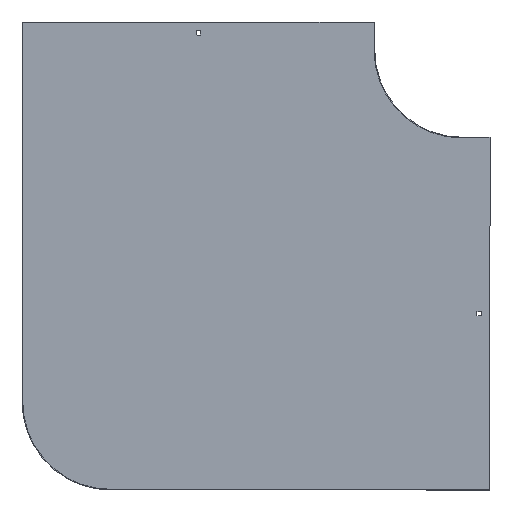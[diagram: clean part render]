
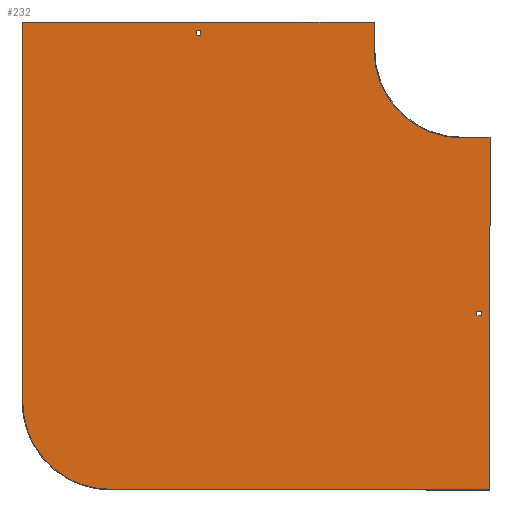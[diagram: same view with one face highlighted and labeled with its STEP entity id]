
A CAD part, front view. The second image highlights one B-rep face of the part: STEP entity #232.
In plain terms, the highlighted planar face has unit normal (0, -1, 0).
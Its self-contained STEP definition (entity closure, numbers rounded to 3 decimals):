
#1 = CARTESIAN_POINT ( 'NONE',  ( 21.5, -1., -372. ) ) ;
#6 = DIRECTION ( 'NONE',  ( 1., 0., 0. ) ) ;
#11 = CARTESIAN_POINT ( 'NONE',  ( -125., -1., 40. ) ) ;
#16 = CIRCLE ( 'NONE', #143, 125. ) ;
#24 = CARTESIAN_POINT ( 'NONE',  ( -626., -1., 40. ) ) ;
#25 = VECTOR ( 'NONE', #567, 1000. ) ;
#27 = VERTEX_POINT ( 'NONE', #120 ) ;
#28 = VECTOR ( 'NONE', #531, 1000. ) ;
#31 = EDGE_CURVE ( 'NONE', #802, #231, #116, .T. ) ;
#36 = ORIENTED_EDGE ( 'NONE', *, *, #812, .F. ) ;
#37 = VERTEX_POINT ( 'NONE', #495 ) ;
#40 = EDGE_CURVE ( 'NONE', #286, #37, #716, .T. ) ;
#42 = ORIENTED_EDGE ( 'NONE', *, *, #704, .F. ) ;
#48 = ORIENTED_EDGE ( 'NONE', *, *, #844, .F. ) ;
#50 = ORIENTED_EDGE ( 'NONE', *, *, #464, .F. ) ;
#55 = LINE ( 'NONE', #722, #819 ) ;
#56 = VECTOR ( 'NONE', #268, 1000. ) ;
#61 = DIRECTION ( 'NONE',  ( 0., -1., 0. ) ) ;
#80 = CARTESIAN_POINT ( 'NONE',  ( -625., -1., -500. ) ) ;
#81 = LINE ( 'NONE', #814, #397 ) ;
#83 = PLANE ( 'NONE',  #739 ) ;
#95 = CARTESIAN_POINT ( 'NONE',  ( 0., -1., -378. ) ) ;
#101 = VERTEX_POINT ( 'NONE', #185 ) ;
#111 = DIRECTION ( 'NONE',  ( -1., 0., 0. ) ) ;
#116 = LINE ( 'NONE', #252, #25 ) ;
#120 = CARTESIAN_POINT ( 'NONE',  ( -378., -1., 28.5 ) ) ;
#130 = CARTESIAN_POINT ( 'NONE',  ( 0., -1., -372. ) ) ;
#143 = AXIS2_PLACEMENT_3D ( 'NONE', #440, #572, #314 ) ;
#151 = CARTESIAN_POINT ( 'NONE',  ( -625., -1., -500. ) ) ;
#152 = EDGE_CURVE ( 'NONE', #419, #101, #395, .T. ) ;
#166 = VECTOR ( 'NONE', #111, 1000. ) ;
#185 = CARTESIAN_POINT ( 'NONE',  ( -125., -1., 0. ) ) ;
#191 = DIRECTION ( 'NONE',  ( 0., 0., -1. ) ) ;
#196 = EDGE_CURVE ( 'NONE', #450, #261, #677, .T. ) ;
#197 = CARTESIAN_POINT ( 'NONE',  ( 0., -1., 28.5 ) ) ;
#199 = ORIENTED_EDGE ( 'NONE', *, *, #152, .F. ) ;
#202 = CARTESIAN_POINT ( 'NONE',  ( 40., -1., -124. ) ) ;
#219 = EDGE_LOOP ( 'NONE', ( #344, #426, #350, #42 ) ) ;
#231 = VERTEX_POINT ( 'NONE', #532 ) ;
#232 = ADVANCED_FACE ( 'NONE', ( #336, #805, #404 ), #83, .T. ) ;
#248 = VECTOR ( 'NONE', #387, 1000. ) ;
#252 = CARTESIAN_POINT ( 'NONE',  ( -372., -1., 0. ) ) ;
#257 = VERTEX_POINT ( 'NONE', #729 ) ;
#261 = VERTEX_POINT ( 'NONE', #1 ) ;
#268 = DIRECTION ( 'NONE',  ( 0., 0., 1. ) ) ;
#272 = LINE ( 'NONE', #80, #56 ) ;
#280 = LINE ( 'NONE', #95, #467 ) ;
#282 = DIRECTION ( 'NONE',  ( 0., 0., 1. ) ) ;
#286 = VERTEX_POINT ( 'NONE', #680 ) ;
#302 = ORIENTED_EDGE ( 'NONE', *, *, #504, .T. ) ;
#307 = EDGE_LOOP ( 'NONE', ( #828, #636, #433, #302 ) ) ;
#314 = DIRECTION ( 'NONE',  ( 0., 0., -1. ) ) ;
#319 = DIRECTION ( 'NONE',  ( 0., 0., -1. ) ) ;
#333 = CARTESIAN_POINT ( 'NONE',  ( 0., -1., -125. ) ) ;
#336 = FACE_BOUND ( 'NONE', #219, .T. ) ;
#344 = ORIENTED_EDGE ( 'NONE', *, *, #196, .F. ) ;
#350 = ORIENTED_EDGE ( 'NONE', *, *, #546, .F. ) ;
#353 = EDGE_CURVE ( 'NONE', #27, #802, #719, .T. ) ;
#360 = LINE ( 'NONE', #24, #791 ) ;
#363 = DIRECTION ( 'NONE',  ( 1., 0., 0. ) ) ;
#367 = CARTESIAN_POINT ( 'NONE',  ( 21.5, -1., -378. ) ) ;
#375 = ORIENTED_EDGE ( 'NONE', *, *, #40, .F. ) ;
#387 = DIRECTION ( 'NONE',  ( -1., 0., 0. ) ) ;
#392 = VERTEX_POINT ( 'NONE', #151 ) ;
#394 = CARTESIAN_POINT ( 'NONE',  ( -378., -1., 21.5 ) ) ;
#395 = LINE ( 'NONE', #656, #503 ) ;
#397 = VECTOR ( 'NONE', #407, 1000. ) ;
#404 = FACE_BOUND ( 'NONE', #307, .T. ) ;
#407 = DIRECTION ( 'NONE',  ( 0., 0., 1. ) ) ;
#408 = EDGE_CURVE ( 'NONE', #257, #450, #81, .T. ) ;
#410 = VERTEX_POINT ( 'NONE', #537 ) ;
#417 = VERTEX_POINT ( 'NONE', #394 ) ;
#418 = LINE ( 'NONE', #750, #808 ) ;
#419 = VERTEX_POINT ( 'NONE', #11 ) ;
#426 = ORIENTED_EDGE ( 'NONE', *, *, #408, .F. ) ;
#433 = ORIENTED_EDGE ( 'NONE', *, *, #493, .T. ) ;
#440 = CARTESIAN_POINT ( 'NONE',  ( 0., -1., 0. ) ) ;
#450 = VERTEX_POINT ( 'NONE', #862 ) ;
#457 = DIRECTION ( 'NONE',  ( 0., 0., -1. ) ) ;
#464 = EDGE_CURVE ( 'NONE', #410, #286, #523, .T. ) ;
#466 = DIRECTION ( 'NONE',  ( 0., 1., 0. ) ) ;
#467 = VECTOR ( 'NONE', #363, 1000. ) ;
#493 = EDGE_CURVE ( 'NONE', #231, #417, #690, .T. ) ;
#495 = CARTESIAN_POINT ( 'NONE',  ( -500., -1., -625. ) ) ;
#503 = VECTOR ( 'NONE', #191, 1000. ) ;
#504 = EDGE_CURVE ( 'NONE', #417, #27, #418, .T. ) ;
#506 = VECTOR ( 'NONE', #610, 1000. ) ;
#521 = CARTESIAN_POINT ( 'NONE',  ( 0., -1., -125. ) ) ;
#523 = LINE ( 'NONE', #202, #741 ) ;
#526 = ORIENTED_EDGE ( 'NONE', *, *, #585, .F. ) ;
#531 = DIRECTION ( 'NONE',  ( 1., 0., 0. ) ) ;
#532 = CARTESIAN_POINT ( 'NONE',  ( -372., -1., 21.5 ) ) ;
#535 = VECTOR ( 'NONE', #6, 1000. ) ;
#537 = CARTESIAN_POINT ( 'NONE',  ( 40., -1., -125. ) ) ;
#545 = DIRECTION ( 'NONE',  ( 1., 0., 0. ) ) ;
#546 = EDGE_CURVE ( 'NONE', #641, #257, #280, .T. ) ;
#567 = DIRECTION ( 'NONE',  ( 0., 0., -1. ) ) ;
#572 = DIRECTION ( 'NONE',  ( 0., -1., 0. ) ) ;
#585 = EDGE_CURVE ( 'NONE', #673, #419, #360, .T. ) ;
#601 = EDGE_LOOP ( 'NONE', ( #526, #48, #626, #375, #50, #36, #807, #199 ) ) ;
#603 = DIRECTION ( 'NONE',  ( 0., 0., -1. ) ) ;
#610 = DIRECTION ( 'NONE',  ( -1., 0., 0. ) ) ;
#626 = ORIENTED_EDGE ( 'NONE', *, *, #860, .F. ) ;
#636 = ORIENTED_EDGE ( 'NONE', *, *, #31, .T. ) ;
#641 = VERTEX_POINT ( 'NONE', #367 ) ;
#650 = CIRCLE ( 'NONE', #835, 125. ) ;
#656 = CARTESIAN_POINT ( 'NONE',  ( -125., -1., 40. ) ) ;
#670 = CARTESIAN_POINT ( 'NONE',  ( -372., -1., 28.5 ) ) ;
#673 = VERTEX_POINT ( 'NONE', #785 ) ;
#677 = LINE ( 'NONE', #130, #248 ) ;
#680 = CARTESIAN_POINT ( 'NONE',  ( 40., -1., -625. ) ) ;
#690 = LINE ( 'NONE', #836, #506 ) ;
#693 = EDGE_CURVE ( 'NONE', #101, #780, #16, .T. ) ;
#704 = EDGE_CURVE ( 'NONE', #261, #641, #55, .T. ) ;
#707 = CARTESIAN_POINT ( 'NONE',  ( 40., -1., -625. ) ) ;
#716 = LINE ( 'NONE', #707, #166 ) ;
#719 = LINE ( 'NONE', #197, #28 ) ;
#722 = CARTESIAN_POINT ( 'NONE',  ( 21.5, -1., 0. ) ) ;
#729 = CARTESIAN_POINT ( 'NONE',  ( 28.5, -1., -378. ) ) ;
#733 = CARTESIAN_POINT ( 'NONE',  ( -500., -1., -500. ) ) ;
#737 = LINE ( 'NONE', #333, #535 ) ;
#739 = AXIS2_PLACEMENT_3D ( 'NONE', #854, #61, #786 ) ;
#741 = VECTOR ( 'NONE', #457, 1000. ) ;
#750 = CARTESIAN_POINT ( 'NONE',  ( -378., -1., 0. ) ) ;
#780 = VERTEX_POINT ( 'NONE', #521 ) ;
#785 = CARTESIAN_POINT ( 'NONE',  ( -625., -1., 40. ) ) ;
#786 = DIRECTION ( 'NONE',  ( 0., 0., -1. ) ) ;
#791 = VECTOR ( 'NONE', #545, 1000. ) ;
#802 = VERTEX_POINT ( 'NONE', #670 ) ;
#805 = FACE_OUTER_BOUND ( 'NONE', #601, .T. ) ;
#807 = ORIENTED_EDGE ( 'NONE', *, *, #693, .F. ) ;
#808 = VECTOR ( 'NONE', #282, 1000. ) ;
#812 = EDGE_CURVE ( 'NONE', #780, #410, #737, .T. ) ;
#814 = CARTESIAN_POINT ( 'NONE',  ( 28.5, -1., 0. ) ) ;
#819 = VECTOR ( 'NONE', #319, 1000. ) ;
#828 = ORIENTED_EDGE ( 'NONE', *, *, #353, .T. ) ;
#835 = AXIS2_PLACEMENT_3D ( 'NONE', #733, #466, #603 ) ;
#836 = CARTESIAN_POINT ( 'NONE',  ( 0., -1., 21.5 ) ) ;
#844 = EDGE_CURVE ( 'NONE', #392, #673, #272, .T. ) ;
#854 = CARTESIAN_POINT ( 'NONE',  ( 0., -1., 0. ) ) ;
#860 = EDGE_CURVE ( 'NONE', #37, #392, #650, .T. ) ;
#862 = CARTESIAN_POINT ( 'NONE',  ( 28.5, -1., -372. ) ) ;
